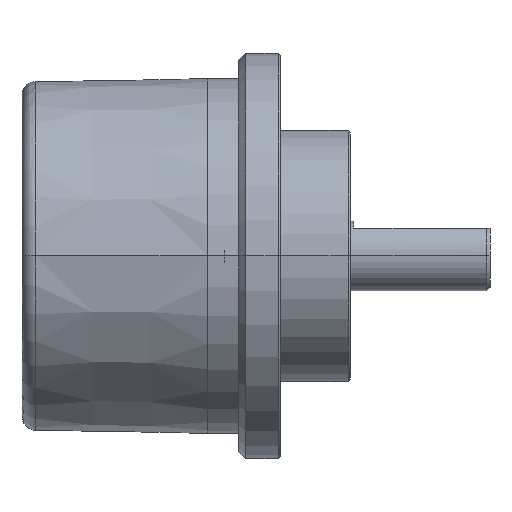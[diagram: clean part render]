
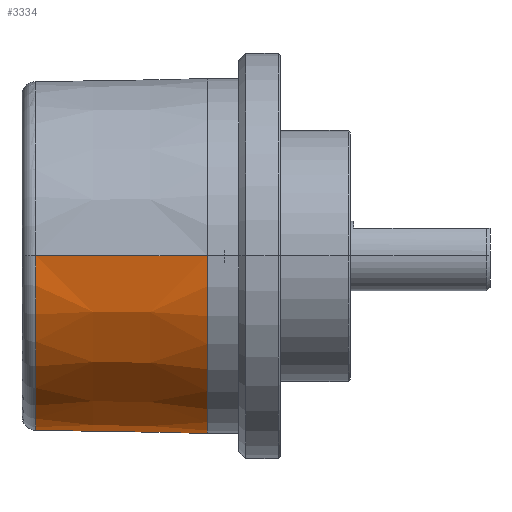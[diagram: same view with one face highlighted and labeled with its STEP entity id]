
A CAD part, top view. The second image highlights one B-rep face of the part: STEP entity #3334.
In plain terms, the highlighted conical face has half-angle 1 degrees and reference radius 25.4 mm.
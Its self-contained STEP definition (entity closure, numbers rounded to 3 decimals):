
#2437 = VERTEX_POINT ( 'NONE', #10384 ) ;
#2565 = EDGE_CURVE ( 'NONE', #2437, #2566, #10667, .T. ) ;
#2566 = VERTEX_POINT ( 'NONE', #10663 ) ;
#3312 = ORIENTED_EDGE ( 'NONE', *, *, #3313, .T. ) ;
#3313 = EDGE_CURVE ( 'NONE', #3339, #3314, #12040, .T. ) ;
#3314 = VERTEX_POINT ( 'NONE', #12039 ) ;
#3315 = ORIENTED_EDGE ( 'NONE', *, *, #3316, .F. ) ;
#3316 = EDGE_CURVE ( 'NONE', #3317, #3314, #12095, .T. ) ;
#3317 = VERTEX_POINT ( 'NONE', #12094 ) ;
#3318 = ORIENTED_EDGE ( 'NONE', *, *, #3319, .T. ) ;
#3319 = EDGE_CURVE ( 'NONE', #3317, #3328, #12089, .T. ) ;
#3320 = ORIENTED_EDGE ( 'NONE', *, *, #3327, .T. ) ;
#3327 = EDGE_CURVE ( 'NONE', #3328, #2566, #12127, .T. ) ;
#3328 = VERTEX_POINT ( 'NONE', #12128 ) ;
#3334 = ADVANCED_FACE ( 'NONE', ( #12113 ), #12112, .T. ) ;
#3335 = EDGE_LOOP ( 'NONE', ( #3336, #3337, #3312, #3315, #3318, #3320 ) ) ;
#3336 = ORIENTED_EDGE ( 'NONE', *, *, #2565, .F. ) ;
#3337 = ORIENTED_EDGE ( 'NONE', *, *, #3338, .T. ) ;
#3338 = EDGE_CURVE ( 'NONE', #2437, #3339, #12110, .T. ) ;
#3339 = VERTEX_POINT ( 'NONE', #12106 ) ;
#10384 = CARTESIAN_POINT ( 'NONE',  ( -19.035, 0., 24.972 ) ) ;
#10663 = CARTESIAN_POINT ( 'NONE',  ( 5.5, 0., 25.4 ) ) ;
#10664 = DIRECTION ( 'NONE',  ( 1., 0., 0.017 ) ) ;
#10665 = VECTOR ( 'NONE', #10664, 1000. ) ;
#10666 = CARTESIAN_POINT ( 'NONE',  ( 5.5, 0., 25.4 ) ) ;
#10667 = LINE ( 'NONE', #10666, #10665 ) ;
#12037 = CARTESIAN_POINT ( 'NONE',  ( -19.023, -16.728, -18.541 ) ) ;
#12038 = CARTESIAN_POINT ( 'NONE',  ( -19.035, -16.728, -18.541 ) ) ;
#12039 = CARTESIAN_POINT ( 'NONE',  ( -19., -16.728, -18.542 ) ) ;
#12040 = B_SPLINE_CURVE_WITH_KNOTS ( 'NONE', 3,
 ( #12038, #12037, #12097, #12096 ),
 .UNSPECIFIED., .F., .F.,
 ( 4, 4 ),
 ( 0., 0. ),
 .UNSPECIFIED. ) ;
#12066 = CARTESIAN_POINT ( 'NONE',  ( 5.5, -12.989, -21.828 ) ) ;
#12067 = CARTESIAN_POINT ( 'NONE',  ( 5.5, -13.341, -21.618 ) ) ;
#12068 = CARTESIAN_POINT ( 'NONE',  ( 5.461, -13.682, -21.403 ) ) ;
#12069 = CARTESIAN_POINT ( 'NONE',  ( 5.317, -14.347, -20.96 ) ) ;
#12070 = CARTESIAN_POINT ( 'NONE',  ( 5.21, -14.672, -20.731 ) ) ;
#12071 = CARTESIAN_POINT ( 'NONE',  ( 4.995, -15.13, -20.392 ) ) ;
#12072 = CARTESIAN_POINT ( 'NONE',  ( 4.914, -15.278, -20.28 ) ) ;
#12073 = CARTESIAN_POINT ( 'NONE',  ( 4.727, -15.562, -20.058 ) ) ;
#12074 = CARTESIAN_POINT ( 'NONE',  ( 4.62, -15.701, -19.947 ) ) ;
#12075 = CARTESIAN_POINT ( 'NONE',  ( 4.436, -15.89, -19.792 ) ) ;
#12076 = CARTESIAN_POINT ( 'NONE',  ( 4.37, -15.95, -19.742 ) ) ;
#12077 = CARTESIAN_POINT ( 'NONE',  ( 4.228, -16.062, -19.648 ) ) ;
#12078 = CARTESIAN_POINT ( 'NONE',  ( 4.151, -16.115, -19.603 ) ) ;
#12079 = CARTESIAN_POINT ( 'NONE',  ( 3.902, -16.252, -19.484 ) ) ;
#12080 = CARTESIAN_POINT ( 'NONE',  ( 3.708, -16.315, -19.426 ) ) ;
#12081 = CARTESIAN_POINT ( 'NONE',  ( 3.5, -16.319, -19.418 ) ) ;
#12082 = CARTESIAN_POINT ( 'NONE',  ( 5.5, 0., 0. ) ) ;
#12089 = B_SPLINE_CURVE_WITH_KNOTS ( 'NONE', 3,
 ( #12081, #12080, #12079, #12078, #12077, #12076, #12075, #12074, #12073, #12072, #12071, #12070, #12069, #12068, #12067, #12066 ),
 .UNSPECIFIED., .F., .F.,
 ( 4, 2, 2, 2, 2, 2, 2, 4 ),
 ( 0., 0.001, 0.001, 0.001, 0.002, 0.002, 0.004, 0.005 ),
 .UNSPECIFIED. ) ;
#12090 = CARTESIAN_POINT ( 'NONE',  ( -19., -16.728, -18.542 ) ) ;
#12091 = CARTESIAN_POINT ( 'NONE',  ( -11.501, -16.586, -18.846 ) ) ;
#12092 = CARTESIAN_POINT ( 'NONE',  ( -4.001, -16.45, -19.137 ) ) ;
#12093 = CARTESIAN_POINT ( 'NONE',  ( 3.5, -16.319, -19.418 ) ) ;
#12094 = CARTESIAN_POINT ( 'NONE',  ( 3.5, -16.319, -19.418 ) ) ;
#12095 = B_SPLINE_CURVE_WITH_KNOTS ( 'NONE', 3,
 ( #12093, #12092, #12091, #12090 ),
 .UNSPECIFIED., .F., .F.,
 ( 4, 4 ),
 ( 0.002, 0.025 ),
 .UNSPECIFIED. ) ;
#12096 = CARTESIAN_POINT ( 'NONE',  ( -19., -16.728, -18.542 ) ) ;
#12097 = CARTESIAN_POINT ( 'NONE',  ( -19.012, -16.728, -18.541 ) ) ;
#12102 = DIRECTION ( 'NONE',  ( 0., 0., -1. ) ) ;
#12103 = DIRECTION ( 'NONE',  ( 1., 0., 0. ) ) ;
#12104 = CARTESIAN_POINT ( 'NONE',  ( -19.035, 0., 0. ) ) ;
#12105 = AXIS2_PLACEMENT_3D ( 'NONE', #12104, #12103, #12102 ) ;
#12106 = CARTESIAN_POINT ( 'NONE',  ( -19.035, -16.728, -18.541 ) ) ;
#12107 = DIRECTION ( 'NONE',  ( 0., 0., 1. ) ) ;
#12108 = DIRECTION ( 'NONE',  ( 1., 0., 0. ) ) ;
#12109 = AXIS2_PLACEMENT_3D ( 'NONE', #12111, #12108, #12107 ) ;
#12110 = CIRCLE ( 'NONE', #12105, 24.972 ) ;
#12111 = CARTESIAN_POINT ( 'NONE',  ( 5.5, 0., 0. ) ) ;
#12112 = CONICAL_SURFACE ( 'NONE', #12109, 25.4, 0.017 ) ;
#12113 = FACE_OUTER_BOUND ( 'NONE', #3335, .T. ) ;
#12124 = DIRECTION ( 'NONE',  ( 0., 0., -1. ) ) ;
#12125 = DIRECTION ( 'NONE',  ( -1., 0., 0. ) ) ;
#12126 = AXIS2_PLACEMENT_3D ( 'NONE', #12082, #12125, #12124 ) ;
#12127 = CIRCLE ( 'NONE', #12126, 25.4 ) ;
#12128 = CARTESIAN_POINT ( 'NONE',  ( 5.5, -12.989, -21.828 ) ) ;
